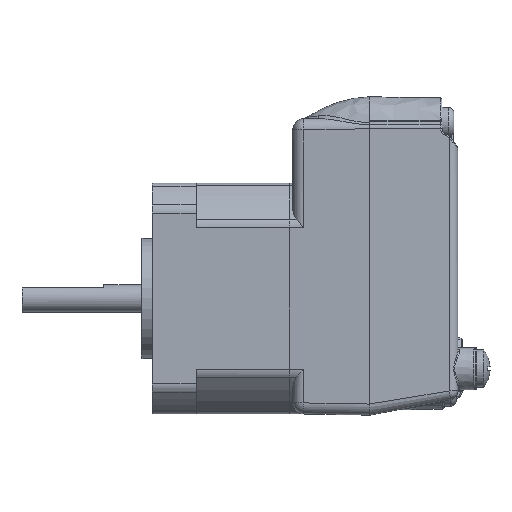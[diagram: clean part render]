
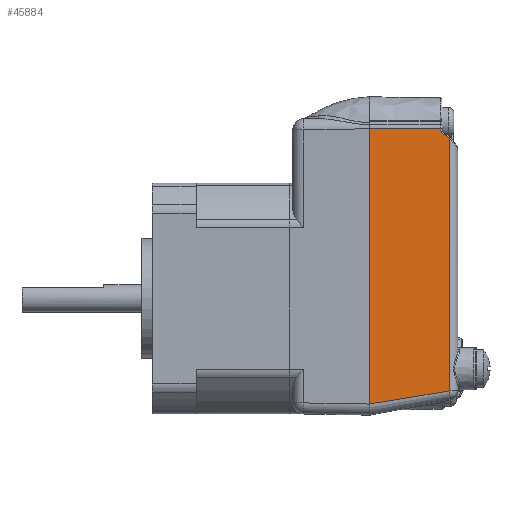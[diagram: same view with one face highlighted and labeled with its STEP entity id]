
A CAD part, left-side view. The second image highlights one B-rep face of the part: STEP entity #45884.
In plain terms, the highlighted planar face has unit normal (-1, -0.018, 0).
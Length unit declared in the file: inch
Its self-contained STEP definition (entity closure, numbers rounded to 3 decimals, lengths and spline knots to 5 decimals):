
#3834=CARTESIAN_POINT('',(-1.69245,0.97775,-0.81352));
#3835=VERTEX_POINT('',#3834);
#3843=CARTESIAN_POINT('',(-1.69245,0.97775,1.16945));
#3844=VERTEX_POINT('',#3843);
#3845=CARTESIAN_POINT('',(-1.69245,0.97775,0.17809));
#3846=DIRECTION('',(0.,0.,-1.));
#3847=VECTOR('',#3846,1.);
#3848=LINE('',#3845,#3847);
#3849=EDGE_CURVE('',#3844,#3835,#3848,.T.);
#33712=CARTESIAN_POINT('',(-1.68241,0.40259,1.1028));
#33713=VERTEX_POINT('',#33712);
#40081=CARTESIAN_POINT('',(-1.68347,0.46442,1.16905));
#40082=VERTEX_POINT('',#40081);
#40166=CARTESIAN_POINT('',(-1.68241,0.40259,-0.71957));
#40167=VERTEX_POINT('',#40166);
#40168=CARTESIAN_POINT('',(-1.68241,0.40259,0.12665));
#40169=DIRECTION('',(0.,0.,-1.));
#40170=VECTOR('',#40169,0.062);
#40171=LINE('',#40168,#40170);
#40172=EDGE_CURVE('',#33713,#40167,#40171,.T.);
#40190=CARTESIAN_POINT('',(-1.68293,0.43237,1.1234));
#40191=VERTEX_POINT('',#40190);
#40201=CARTESIAN_POINT('',(-1.68262,0.41446,1.17008));
#40202=DIRECTION('',(-1.,-0.017,0.));
#40203=DIRECTION('',(-0.017,0.999,-0.047));
#40204=AXIS2_PLACEMENT_3D('',#40201,#40202,#40203);
#40205=CIRCLE('',#40204,0.05);
#40206=EDGE_CURVE('',#40082,#40191,#40205,.T.);
#40368=CARTESIAN_POINT('',(-1.68277,0.42295,1.11978));
#40369=VERTEX_POINT('',#40368);
#40379=CARTESIAN_POINT('',(-1.6813,0.33875,1.08746));
#40380=DIRECTION('',(0.016,-0.933,-0.358));
#40381=VECTOR('',#40380,0.01);
#40382=LINE('',#40379,#40381);
#40383=EDGE_CURVE('',#40191,#40369,#40382,.T.);
#40393=CARTESIAN_POINT('',(-1.68245,0.40513,1.10623));
#40394=VERTEX_POINT('',#40393);
#40404=CARTESIAN_POINT('',(-1.68302,0.43728,1.08243));
#40405=DIRECTION('',(1.,0.017,0.));
#40406=DIRECTION('',(0.006,-0.358,0.934));
#40407=AXIS2_PLACEMENT_3D('',#40404,#40405,#40406);
#40408=CIRCLE('',#40407,0.04001);
#40409=EDGE_CURVE('',#40369,#40394,#40408,.T.);
#40514=CARTESIAN_POINT('',(-1.67646,0.06144,0.64177));
#40515=DIRECTION('',(0.01,-0.595,-0.804));
#40516=VECTOR('',#40515,0.01);
#40517=LINE('',#40514,#40516);
#40518=EDGE_CURVE('',#40394,#33713,#40517,.T.);
#45531=CARTESIAN_POINT('',(-1.69245,0.97775,1.16945));
#45532=CARTESIAN_POINT('',(-1.69203,0.95358,1.16937));
#45533=CARTESIAN_POINT('',(-1.69161,0.92941,1.16929));
#45534=CARTESIAN_POINT('',(-1.69118,0.90524,1.16921));
#45535=CARTESIAN_POINT('',(-1.69075,0.88018,1.16912));
#45536=CARTESIAN_POINT('',(-1.69031,0.85512,1.16903));
#45537=CARTESIAN_POINT('',(-1.68987,0.83006,1.16895));
#45538=CARTESIAN_POINT('',(-1.6896,0.8144,1.1689));
#45539=CARTESIAN_POINT('',(-1.68933,0.79873,1.16884));
#45540=CARTESIAN_POINT('',(-1.68905,0.78307,1.16879));
#45541=CARTESIAN_POINT('',(-1.68888,0.77328,1.16876));
#45542=CARTESIAN_POINT('',(-1.68871,0.7635,1.16872));
#45543=CARTESIAN_POINT('',(-1.68854,0.75371,1.16869));
#45544=CARTESIAN_POINT('',(-1.68832,0.74089,1.16865));
#45545=CARTESIAN_POINT('',(-1.68809,0.72808,1.1686));
#45546=CARTESIAN_POINT('',(-1.68787,0.71527,1.16856));
#45547=CARTESIAN_POINT('',(-1.68751,0.69477,1.16849));
#45548=CARTESIAN_POINT('',(-1.68715,0.67427,1.16842));
#45549=CARTESIAN_POINT('',(-1.68679,0.65377,1.16835));
#45550=CARTESIAN_POINT('',(-1.68622,0.62097,1.16824));
#45551=CARTESIAN_POINT('',(-1.68565,0.58817,1.16813));
#45552=CARTESIAN_POINT('',(-1.68508,0.55537,1.16803));
#45553=CARTESIAN_POINT('',(-1.68455,0.52505,1.16792));
#45554=CARTESIAN_POINT('',(-1.68402,0.49474,1.16782));
#45555=CARTESIAN_POINT('',(-1.68349,0.46443,1.16772));
#45556=B_SPLINE_CURVE_WITH_KNOTS('',3,(#45531,#45532,#45533,#45534,#45535,#45536,#45537,#45538,#45539,#45540,#45541,#45542,#45543,#45544,#45545,#45546,#45547,#45548,#45549,#45550,#45551,#45552,#45553,#45554,#45555),.UNSPECIFIED.,.F.,.F.,(4,3,3,3,3,3,3,3,4),(0.00501,0.07754,0.15273,0.19972,0.22909,0.26754,0.32905,0.42746,0.51842),.UNSPECIFIED.);
#45557=EDGE_CURVE('',#3844,#40082,#45556,.T.);
#45864=ORIENTED_EDGE('',*,*,#45557,.F.);
#45865=ORIENTED_EDGE('',*,*,#3849,.T.);
#45866=CARTESIAN_POINT('',(-1.69263,0.98801,-0.8152));
#45867=DIRECTION('',(-0.017,0.987,-0.161));
#45868=VECTOR('',#45867,0.64312);
#45869=LINE('',#45866,#45868);
#45870=EDGE_CURVE('',#40167,#3835,#45869,.T.);
#45871=ORIENTED_EDGE('',*,*,#45870,.F.);
#45872=ORIENTED_EDGE('',*,*,#40172,.F.);
#45873=ORIENTED_EDGE('',*,*,#40518,.F.);
#45874=ORIENTED_EDGE('',*,*,#40409,.F.);
#45875=ORIENTED_EDGE('',*,*,#40383,.F.);
#45876=ORIENTED_EDGE('',*,*,#40206,.F.);
#45877=EDGE_LOOP('',(#45864,#45865,#45871,#45872,#45873,#45874,#45875,#45876));
#45878=FACE_OUTER_BOUND('',#45877,.T.);
#45879=CARTESIAN_POINT('',(-1.68739,0.68766,0.17825));
#45880=DIRECTION('',(-1.,-0.017,0.));
#45881=DIRECTION('',(0.,0.,1.));
#45882=AXIS2_PLACEMENT_3D('',#45879,#45880,#45881);
#45883=PLANE('',#45882);
#45884=ADVANCED_FACE('',(#45878),#45883,.T.);
